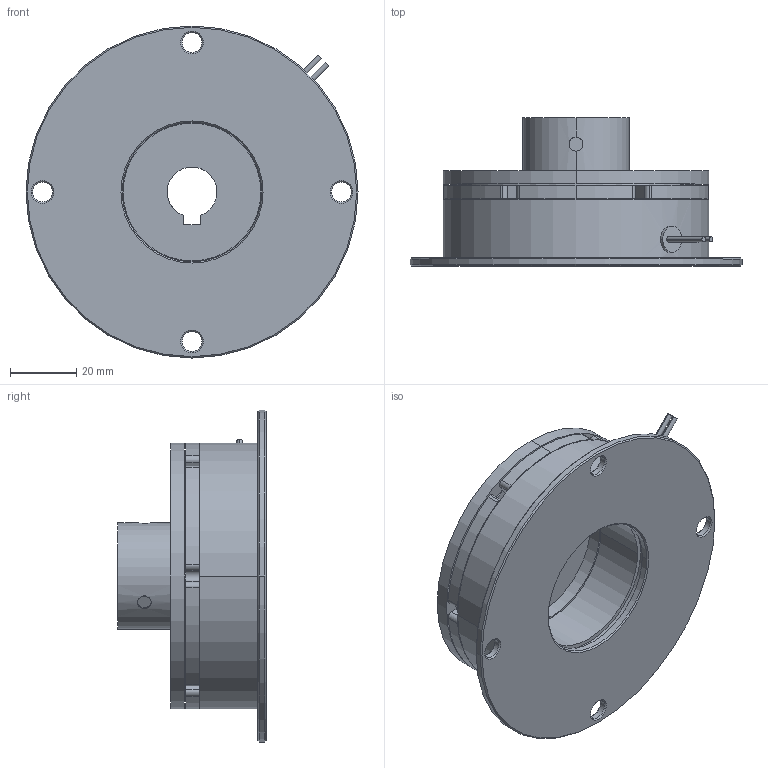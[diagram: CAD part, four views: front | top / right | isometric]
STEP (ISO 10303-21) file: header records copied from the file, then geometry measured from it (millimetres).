
FILE_DESCRIPTION (( 'STEP AP203' ), '1' );
FILE_NAME ('B-M10-F02-15.STEP', '2019-11-13T06:52:00', ( '' ), ( '' ), 'SwSTEP 2.0', 'SolidWorks 2015', '' );
FILE_SCHEMA (( 'CONFIG_CONTROL_DESIGN' ));
Length unit declared in the file: millimetre
Products named in the file (1): B-M10-F02-15
Bounding box: 100 x 44.7 x 100 mm (x, y, z)
Volume: 122267 mm3; surface area: 40473.7 mm2
Topology: 2 solids, 8 shells, 354 faces, 821 edges, 510 vertices
Faces by surface type: cylinder 150, plane 116, cone 58, torus 24, sphere 6
Entity records: 10456 total; most frequent: CARTESIAN_POINT 1969, DIRECTION 1957, ORIENTED_EDGE 1618, AXIS2_PLACEMENT_3D 810, EDGE_CURVE 809, VERTEX_POINT 510, CIRCLE 455, EDGE_LOOP 417
